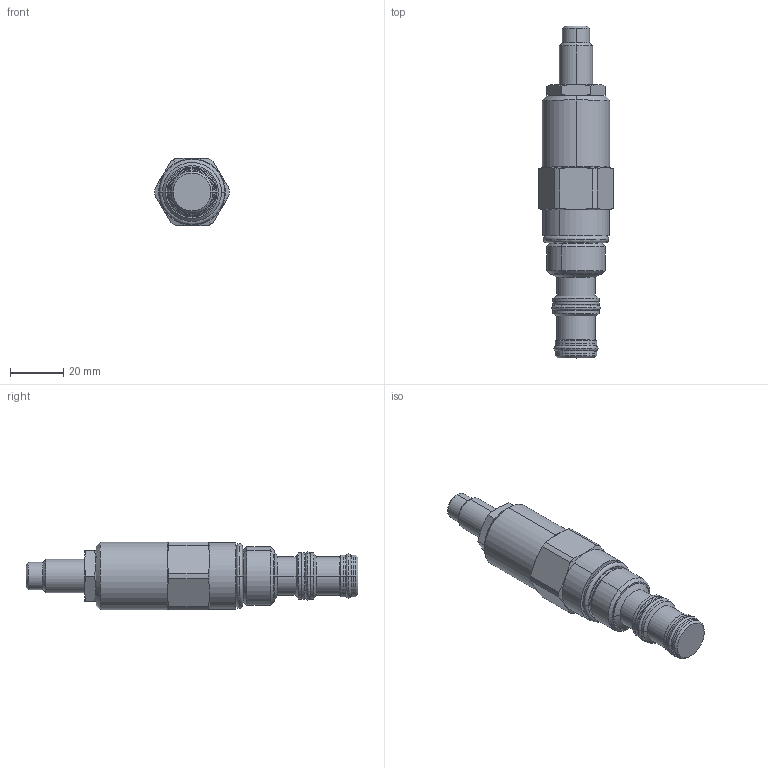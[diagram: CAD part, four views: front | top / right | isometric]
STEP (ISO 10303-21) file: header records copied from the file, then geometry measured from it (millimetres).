
FILE_DESCRIPTION((''),'2;1');
FILE_NAME('ASM0001_SW0002','2009-03-24T',('jcs'),(''),'PRO/ENGINEER BY PARAMETRIC TECHNOLOGY CORPORATION, 2008510','PRO/ENGINEER BY PARAMETRIC TECHNOLOGY CORPORATION, 2008510','');
FILE_SCHEMA(('CONFIG_CONTROL_DESIGN'));
Length unit declared in the file: inch
Products named in the file (1): ASM0001_SW0002
Bounding box: 28.19 x 124.99 x 25.4 mm (x, y, z)
Volume: 42190.9 mm3; surface area: 11129.1 mm2
Topology: 4 solids, 4 shells, 187 faces, 412 edges, 243 vertices
Faces by surface type: cylinder 52, cone 46, plane 43, revolution 24, torus 22
Entity records: 5852 total; most frequent: CARTESIAN_POINT 1694, DIRECTION 894, ORIENTED_EDGE 820, EDGE_CURVE 410, AXIS2_PLACEMENT_3D 375, VERTEX_POINT 243, CIRCLE 212, EDGE_LOOP 205
